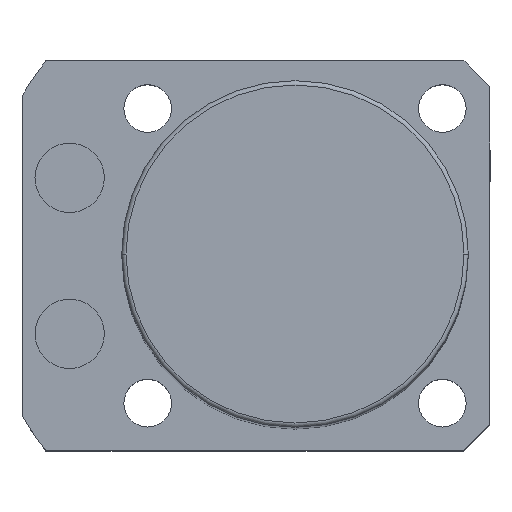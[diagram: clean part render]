
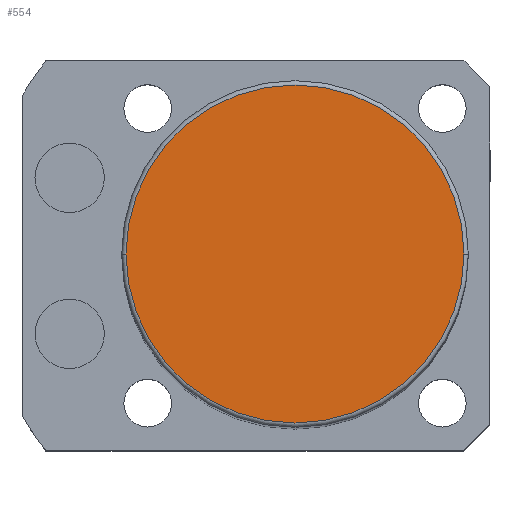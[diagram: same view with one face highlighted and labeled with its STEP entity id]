
A CAD part, top view. The second image highlights one B-rep face of the part: STEP entity #554.
In plain terms, the highlighted planar face has unit normal (0, 0, 1).
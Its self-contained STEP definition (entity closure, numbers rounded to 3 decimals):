
#63 = CARTESIAN_POINT ( 'NONE',  ( 0., 0., 133.5 ) ) ;
#74 = FACE_OUTER_BOUND ( 'NONE', #1208, .T. ) ;
#425 = AXIS2_PLACEMENT_3D ( 'NONE', #1061, #672, #1890 ) ;
#554 = ADVANCED_FACE ( 'NONE', ( #74 ), #938, .T. ) ;
#646 = VERTEX_POINT ( 'NONE', #1388 ) ;
#672 = DIRECTION ( 'NONE',  ( 0., 0., 1. ) ) ;
#695 = AXIS2_PLACEMENT_3D ( 'NONE', #950, #2411, #1606 ) ;
#702 = DIRECTION ( 'NONE',  ( 1., 0., 0. ) ) ;
#938 = PLANE ( 'NONE',  #695 ) ;
#950 = CARTESIAN_POINT ( 'NONE',  ( 0., 0., 133.5 ) ) ;
#1061 = CARTESIAN_POINT ( 'NONE',  ( 0., 0., 133.5 ) ) ;
#1186 = ORIENTED_EDGE ( 'NONE', *, *, #2282, .T. ) ;
#1208 = EDGE_LOOP ( 'NONE', ( #1186, #1210 ) ) ;
#1210 = ORIENTED_EDGE ( 'NONE', *, *, #2425, .T. ) ;
#1380 = AXIS2_PLACEMENT_3D ( 'NONE', #63, #1515, #702 ) ;
#1388 = CARTESIAN_POINT ( 'NONE',  ( 19.5, 0., 133.5 ) ) ;
#1515 = DIRECTION ( 'NONE',  ( 0., 0., 1. ) ) ;
#1538 = CIRCLE ( 'NONE', #1380, 19.5 ) ;
#1606 = DIRECTION ( 'NONE',  ( 1., 0., 0. ) ) ;
#1710 = CIRCLE ( 'NONE', #425, 19.5 ) ;
#1890 = DIRECTION ( 'NONE',  ( 1., 0., 0. ) ) ;
#1928 = CARTESIAN_POINT ( 'NONE',  ( -19.5, 0., 133.5 ) ) ;
#2162 = VERTEX_POINT ( 'NONE', #1928 ) ;
#2282 = EDGE_CURVE ( 'NONE', #646, #2162, #1710, .T. ) ;
#2411 = DIRECTION ( 'NONE',  ( 0., 0., 1. ) ) ;
#2425 = EDGE_CURVE ( 'NONE', #2162, #646, #1538, .T. ) ;
